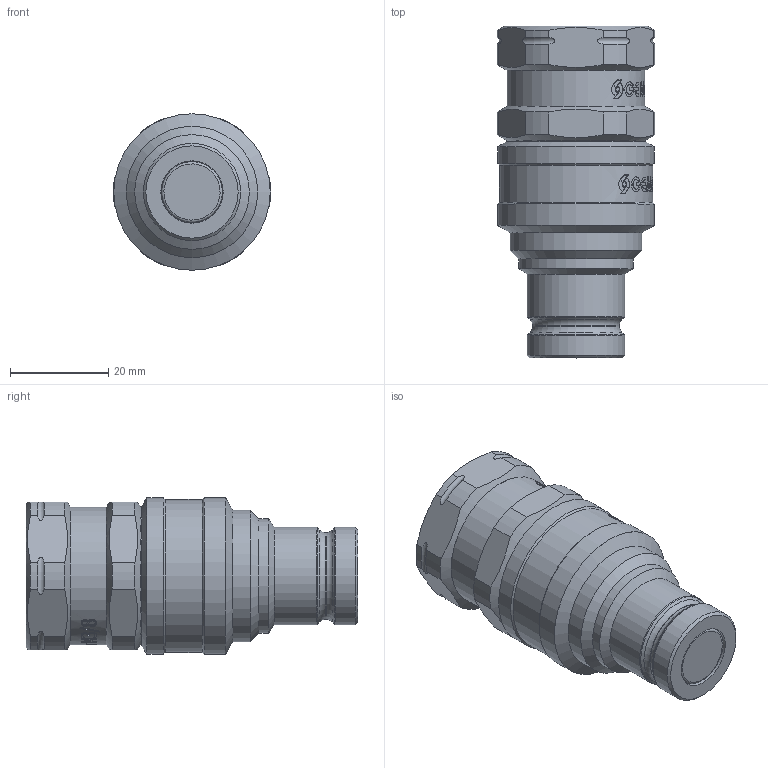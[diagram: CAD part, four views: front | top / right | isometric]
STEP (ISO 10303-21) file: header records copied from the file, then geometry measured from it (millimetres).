
FILE_DESCRIPTION(/* description */ (''),/* implementation_level */ '2;1');
FILE_NAME(/* name */ 'NC05N020000.stp',/* time_stamp */ '2026-07-27T09:06:08+02:00',/* author */ ('francesca.patelli'),/* organization */ (''),/* preprocessor_version */ 'ST-DEVELOPER v20',/* originating_system */ 'Autodesk Inventor 2024',/* authorisation */ '');
FILE_SCHEMA (('AUTOMOTIVE_DESIGN { 1 0 10303 214 3 1 1 }'));
Length unit declared in the file: millimetre
Products named in the file (1): Parte2
Bounding box: 31.95 x 67.4 x 31.8 mm (x, y, z)
Volume: 36621.1 mm3; surface area: 8757.9 mm2
Topology: 1 solids, 1 shells, 1086 faces, 3094 edges, 2054 vertices
Faces by surface type: bspline 717, plane 257, cylinder 83, cone 17, torus 12
Full cylindrical faces by diameter (mm): 12.55 x1, 12.65 x1, 13.889 x1, 17.65 x1, 19.75 x2, 23.3 x1, 26 x1, 26.3 x1, 26.7 x1, 28 x1, 31.1 x1, 31.8 x2
Entity records: 47393 total; most frequent: CARTESIAN_POINT 22762, ORIENTED_EDGE 6188, EDGE_CURVE 3094, DIRECTION 2684, VERTEX_POINT 2054, B_SPLINE_CURVE_WITH_KNOTS 1496, LINE 1196, VECTOR 1196
